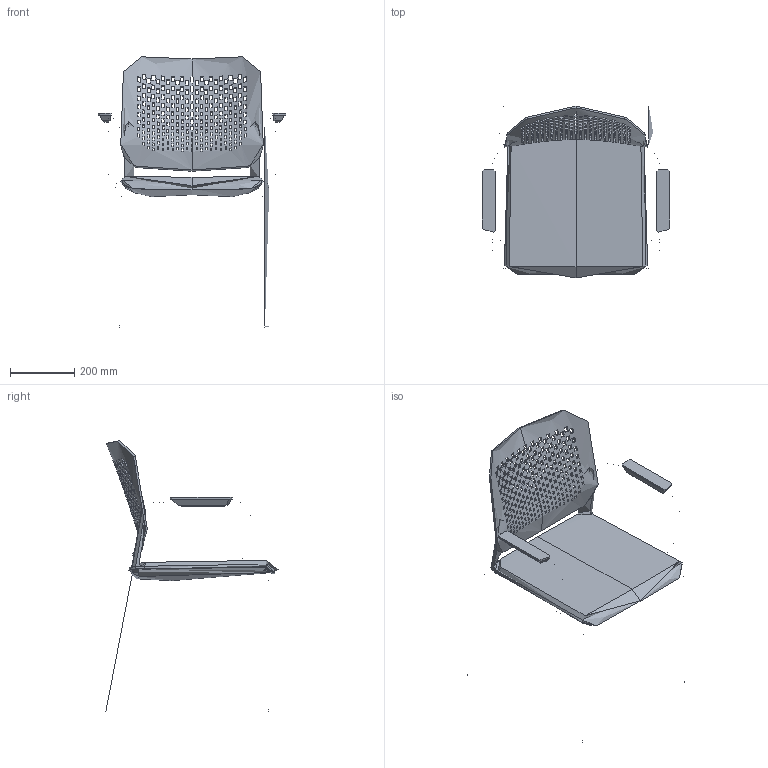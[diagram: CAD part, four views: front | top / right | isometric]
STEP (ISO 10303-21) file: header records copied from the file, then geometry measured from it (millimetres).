
FILE_DESCRIPTION(/* description */ (''),/* implementation_level */ '2;1');
FILE_NAME(/* name */ 'Time 171-B',/* time_stamp */ '2019-11-22T22:56:36+01:00',/* author */ (''),/* organization */ (''),/* preprocessor_version */ 'ST-DEVELOPER v16.5',/* originating_system */ '',/* authorisation */ '');
FILE_SCHEMA (('AUTOMOTIVE_DESIGN'));
Length unit declared in the file: millimetre
Products named in the file (1): Document
Bounding box: 582 x 534.87 x 840.75 mm (x, y, z)
Volume: 4791816.5 mm3; surface area: 1716900.3 mm2
Topology: 3 solids, 13 shells, 1140 faces, 3347 edges, 2193 vertices
Faces by surface type: bspline 640, plane 500
Entity records: 63174 total; most frequent: CARTESIAN_POINT 41761, ORIENTED_EDGE 6646, EDGE_CURVE 3344, B_SPLINE_CURVE_WITH_KNOTS 3217, VERTEX_POINT 2191, EDGE_LOOP 1590, ADVANCED_FACE 1140, FACE_OUTER_BOUND 1140
